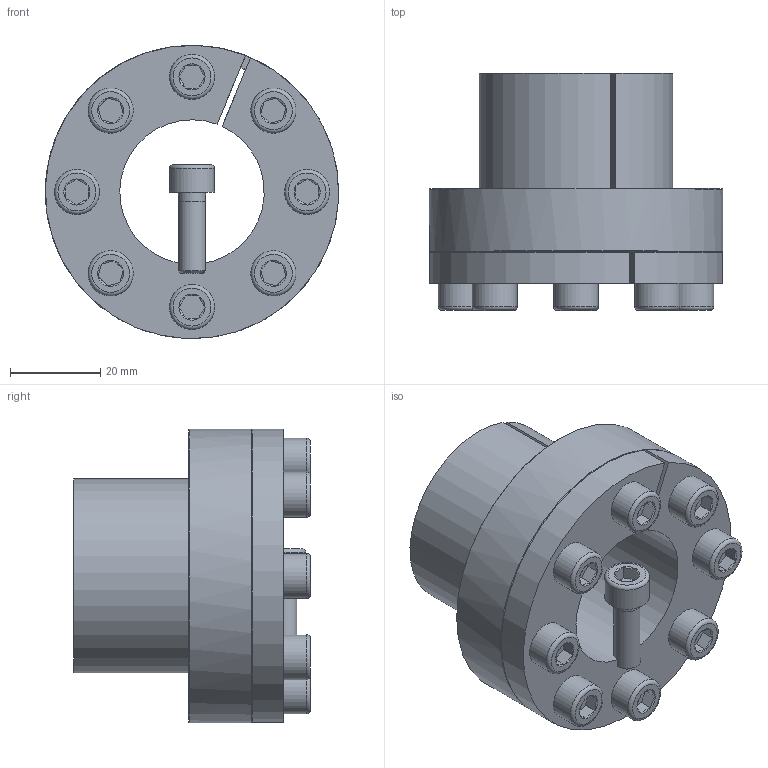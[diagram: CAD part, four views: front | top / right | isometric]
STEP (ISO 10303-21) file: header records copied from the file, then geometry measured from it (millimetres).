
FILE_DESCRIPTION( ( 'Unknown' ), '1' );
FILE_NAME( 'C:/Dokumente und Einstellungen/Sven/Desktop/homepage/cad - homepage/KBS80/KBS 80 - 32 x 43.stp', 'Unknown', ( 'Unknown' ), ( 'Unknown' ), 'XStep 1.0', 'Unknown', ' ' );
FILE_SCHEMA( ( 'automotive_design' ) );
Length unit declared in the file: millimetre
Products named in the file (10): Assem1; KBS 80 - 32 x 43; ISO EN DIN 4762 M6x18; ISO EN DIN 4762 M6x18-oa0; ISO EN DIN 4762 M6x18-oa1; ISO EN DIN 4762 M6x18-oa2; ISO EN DIN 4762 M6x18-oa3; ISO EN DIN 4762 M6x18-oa4; ISO EN DIN 4762 M6x18-oa5; ISO EN DIN 4762 M6x18-oa6
Bounding box: 65 x 52.5 x 65 mm (x, y, z)
Volume: 142208.5 mm3; surface area: 53702 mm2
Topology: 18 solids, 18 shells, 456 faces, 854 edges, 496 vertices
Faces by surface type: plane 208, cone 126, cylinder 90, torus 32
Full cylindrical faces by diameter (mm): 5 x16, 6 x48, 10 x16, 65 x2
Entity records: 5767 total; most frequent: CARTESIAN_POINT 1201, DIRECTION 932, ORIENTED_EDGE 682, AXIS2_PLACEMENT_3D 409, EDGE_LOOP 345, EDGE_CURVE 341, FACE_OUTER_BOUND 285, VERTEX_POINT 230
